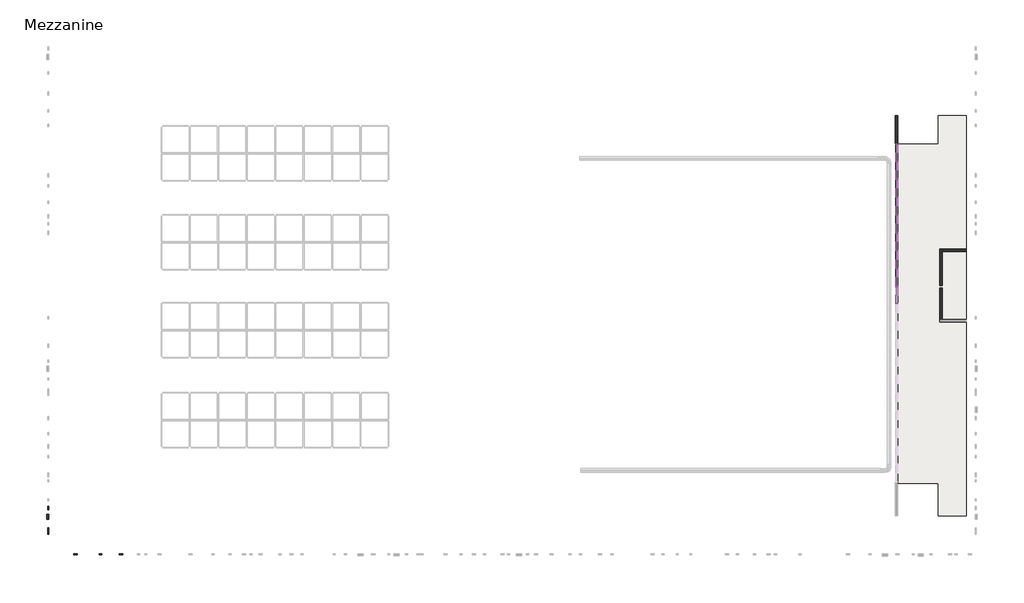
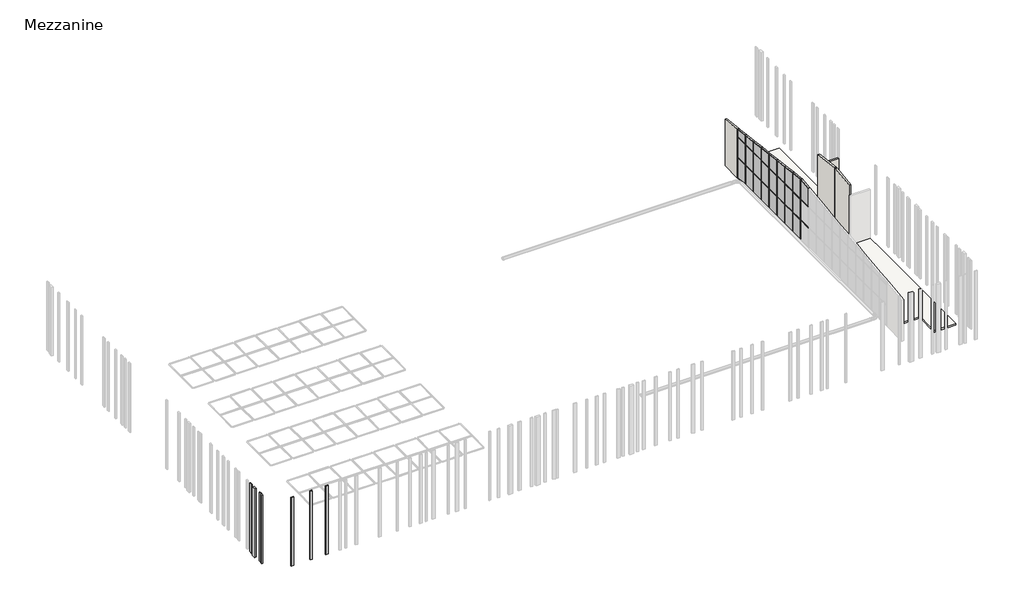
# One storey, part 2 of 7: 63 members, 25 plates, 7 columns, 3 walls, 1 slab.
"""IFC4 building model written with IfcOpenShell, lengths in millimetres."""

from ifc_helpers import new_model, si_unit, frame, origin, place, context, project, spatial, polyline, outline, extrude, faceted_brep, transform, mapped, element, save
from components import rectangular_mullion_50x150mm_3f309564, rectangular_mullion_50x150mm_6225e4e3, rectangular_mullion_50x150mm_2e7cc893, rectangular_mullion_50x150mm_5172759d, rectangular_mullion_50x150mm_f517b106, rectangular_mullion_50x150mm_6953233a, rectangular_mullion_50x150mm_662c37b1, rectangular_mullion_50x150mm_d798f442, rectangular_mullion_50x150mm_2a69905f, rectangular_mullion_50x150mm_edd430c1, rectangular_mullion_50x150mm_ae52ff38, rectangular_mullion_50x150mm_66c7db26, rectangular_mullion_50x150mm_93e457b6, rectangular_mullion_50x150mm_efd1a130, rectangular_mullion_50x150mm_404ae1a5, rectangular_mullion_50x150mm_37c01aa4, rectangular_mullion_50x150mm_562156de, rectangular_mullion_50x150mm_1e1698a4, rectangular_mullion_50x150mm_6c5de3a9, system_panel_glazed_c8329cd5, system_panel_glazed_24a0e3a8, system_panel_glazed_3d8f6b4e, system_panel_glazed_97d3e589, system_panel_glazed_0e85f418, system_panel_glazed_0b8ca4ec, system_panel_glazed_63b6f638, system_panel_glazed_34110132, system_panel_glazed_59f877d7, system_panel_glazed_ab255019, system_panel_glazed_0363fdee, system_panel_glazed_9d7c6a2b, system_panel_glazed_07299630

model = new_model("IFC4")

# Units and contexts
model_context = context("Model", 3, world=origin())
ifc_project = project(units=[si_unit("LENGTHUNIT", "METRE", prefix="MILLI")], contexts=[model_context])

# Site, building, storey
site = spatial("IfcSite", under=ifc_project)
building = spatial("IfcBuilding", under=site)
storey = spatial("IfcBuildingStorey", under=building, Name="Mezzanine", Elevation=5800.0)

# Columns
placement = place(None, origin())
element("IfcColumn", 1, ObjectType="Columns_Rectangular : 200x200", at=placement, inside=storey, context=model_context, shape_type="SweptSolid", body=[
    extrude(outline(polyline([(-90259.8408447, -34568.4199596), (-90259.8408447, -34768.4199596), (-90359.8408447, -34768.4199596), (-90359.8408447, -34568.4199596), (-90259.8408447, -34568.4199596)])), frame((0.0, 0.0, 5800.0), z_axis=(0.0, 0.0, 1.0), x_axis=(1.0, 0.0, 0.0)), (0.0, 0.0, 1.0), 8000.0),
])
element("IfcColumn", 2, ObjectType="Columns_Rectangular : 200x200", at=placement, inside=storey, context=model_context, shape_type="SweptSolid", body=[
    extrude(outline(polyline([(-86016.5322209, -36405.9222204), (-85816.5322209, -36405.9222204), (-85816.5322209, -36505.9222204), (-86016.5322209, -36505.9222204), (-86016.5322209, -36405.9222204)])), frame((0.0, 0.0, 5800.0), z_axis=(0.0, 0.0, 1.0), x_axis=(1.0, 0.0, 0.0)), (0.0, 0.0, 1.0), 8000.0),
])
element("IfcColumn", 3, ObjectType="Columns_Rectangular : 300x300", at=placement, inside=storey, context=model_context, shape_type="SweptSolid", body=[
    extrude(outline(polyline([(-90259.8408447, -32408.892235), (-90259.8408447, -32708.892235), (-90359.8408447, -32708.892235), (-90359.8408447, -32408.892235), (-90259.8408447, -32408.892235)])), frame((0.0, 0.0, 5800.0), z_axis=(0.0, 0.0, 1.0), x_axis=(1.0, 0.0, 0.0)), (0.0, 0.0, 1.0), 8000.0),
])
element("IfcColumn", 4, ObjectType="Columns_Rectangular : 300x300", at=placement, inside=storey, context=model_context, shape_type="SweptSolid", body=[
    extrude(outline(polyline([(-90259.8408447, -34208.892235), (-90259.8408447, -34508.892235), (-90359.8408447, -34508.892235), (-90359.8408447, -34208.892235), (-90259.8408447, -34208.892235)])), frame((0.0, 0.0, 5800.0), z_axis=(0.0, 0.0, 1.0), x_axis=(1.0, 0.0, 0.0)), (0.0, 0.0, 1.0), 8000.0),
])
element("IfcColumn", 5, ObjectType="Columns_Rectangular : 300x300", at=placement, inside=storey, context=model_context, shape_type="SweptSolid", body=[
    extrude(outline(polyline([(-84334.7290862, -36405.9222204), (-84034.7290862, -36405.9222204), (-84034.7290862, -36505.9222204), (-84334.7290862, -36505.9222204), (-84334.7290862, -36405.9222204)])), frame((0.0, 0.0, 5800.0), z_axis=(0.0, 0.0, 1.0), x_axis=(1.0, 0.0, 0.0)), (0.0, 0.0, 1.0), 8000.0),
])
element("IfcColumn", 6, ObjectType="Columns_Rectangular : 300x300", at=placement, inside=storey, context=model_context, shape_type="SweptSolid", body=[
    extrude(outline(polyline([(-88157.2053344, -36405.9222204), (-87857.2053344, -36405.9222204), (-87857.2053344, -36505.9222204), (-88157.2053344, -36505.9222204), (-88157.2053344, -36405.9222204)])), frame((0.0, 0.0, 5800.0), z_axis=(0.0, 0.0, 1.0), x_axis=(1.0, 0.0, 0.0)), (0.0, 0.0, 1.0), 8000.0),
])
element("IfcColumn", 7, ObjectType="Columns_Rectangular : 450x450mm", at=placement, inside=storey, context=model_context, shape_type="SweptSolid", body=[
    extrude(outline(polyline([(-90259.8408447, -33080.9199596), (-90259.8408447, -33530.9199596), (-90459.8408447, -33530.9199596), (-90459.8408447, -33080.9199596), (-90259.8408447, -33080.9199596)])), frame((0.0, 0.0, 5800.0), z_axis=(0.0, 0.0, 1.0), x_axis=(1.0, 0.0, 0.0)), (0.0, 0.0, 1.0), 8000.0),
])

# Members
rectangular_mullion_50x150mm_shape = rectangular_mullion_50x150mm_3f309564(model_context)
element("IfcMember", 8, ObjectType="Rectangular Mullion : 50x150mm", at=placement, inside=storey, context=model_context, shape_type="MappedRepresentation", body=[
    mapped(rectangular_mullion_50x150mm_shape, transform((-18810.7705062, -3284.8462757, 5800.0), x_axis=(0.0, 0.0, -1.0), y_axis=(1.0, 0.0, 0.0), z_axis=(0.0, -1.0, 0.0))),
])
rectangular_mullion_50x150mm_2_shape = rectangular_mullion_50x150mm_6225e4e3(model_context)
element("IfcMember", 9, ObjectType="Rectangular Mullion : 50x150mm", at=placement, inside=storey, context=model_context, shape_type="MappedRepresentation", body=[
    mapped(rectangular_mullion_50x150mm_2_shape, transform((-18810.7705062, -13837.330486, 5800.0), x_axis=(0.0, 1.0, 0.0), y_axis=(1.0, 0.0, 0.0), z_axis=(0.0, 0.0, -1.0))),
])
element("IfcMember", 10, ObjectType="Rectangular Mullion : 50x150mm", at=placement, inside=storey, context=model_context, shape_type="MappedRepresentation", body=[
    mapped(rectangular_mullion_50x150mm_2_shape, transform((-18810.7705062, -12333.4041702, 5800.0), x_axis=(0.0, 1.0, 0.0), y_axis=(1.0, 0.0, 0.0), z_axis=(0.0, 0.0, -1.0))),
])
element("IfcMember", 11, ObjectType="Rectangular Mullion : 50x150mm", at=placement, inside=storey, context=model_context, shape_type="MappedRepresentation", body=[
    mapped(rectangular_mullion_50x150mm_2_shape, transform((-18810.7705062, -10829.4778545, 5800.0), x_axis=(0.0, 1.0, 0.0), y_axis=(1.0, 0.0, 0.0), z_axis=(0.0, 0.0, -1.0))),
])
element("IfcMember", 12, ObjectType="Rectangular Mullion : 50x150mm", at=placement, inside=storey, context=model_context, shape_type="MappedRepresentation", body=[
    mapped(rectangular_mullion_50x150mm_2_shape, transform((-18810.7705062, -9325.5515387, 5800.0), x_axis=(0.0, 1.0, 0.0), y_axis=(1.0, 0.0, 0.0), z_axis=(0.0, 0.0, -1.0))),
])
element("IfcMember", 13, ObjectType="Rectangular Mullion : 50x150mm", at=placement, inside=storey, context=model_context, shape_type="MappedRepresentation", body=[
    mapped(rectangular_mullion_50x150mm_2_shape, transform((-18810.7705062, -7821.625223, 5800.0), x_axis=(0.0, 1.0, 0.0), y_axis=(1.0, 0.0, 0.0), z_axis=(0.0, 0.0, -1.0))),
])
element("IfcMember", 14, ObjectType="Rectangular Mullion : 50x150mm", at=placement, inside=storey, context=model_context, shape_type="MappedRepresentation", body=[
    mapped(rectangular_mullion_50x150mm_2_shape, transform((-18810.7705062, -6317.6989072, 5800.0), x_axis=(0.0, 1.0, 0.0), y_axis=(1.0, 0.0, 0.0), z_axis=(0.0, 0.0, -1.0))),
])
element("IfcMember", 15, ObjectType="Rectangular Mullion : 50x150mm", at=placement, inside=storey, context=model_context, shape_type="MappedRepresentation", body=[
    mapped(rectangular_mullion_50x150mm_2_shape, transform((-18810.7705062, -4813.7725915, 5800.0), x_axis=(0.0, 1.0, 0.0), y_axis=(1.0, 0.0, 0.0), z_axis=(0.0, 0.0, -1.0))),
])
element("IfcMember", 16, ObjectType="Rectangular Mullion : 50x150mm", at=placement, inside=storey, context=model_context, shape_type="MappedRepresentation", body=[
    mapped(rectangular_mullion_50x150mm_2_shape, transform((-18810.7705062, -3309.8462757, 5800.0), x_axis=(0.0, 1.0, 0.0), y_axis=(1.0, 0.0, 0.0), z_axis=(0.0, 0.0, -1.0))),
])
rectangular_mullion_50x150mm_3_shape = rectangular_mullion_50x150mm_2e7cc893(model_context)
element("IfcMember", 17, ObjectType="Rectangular Mullion : 50x150mm", at=placement, inside=storey, context=model_context, shape_type="MappedRepresentation", body=[
    mapped(rectangular_mullion_50x150mm_3_shape, transform((-18810.7705062, -1855.9199596, 8200.0), x_axis=(0.0, 0.0, 1.0), y_axis=(1.0, 0.0, 0.0), z_axis=(0.0, 1.0, 0.0))),
])
element("IfcMember", 18, ObjectType="Rectangular Mullion : 50x150mm", at=placement, inside=storey, context=model_context, shape_type="MappedRepresentation", body=[
    mapped(rectangular_mullion_50x150mm_3_shape, transform((-18810.7705062, -1855.9199596, 10600.0), x_axis=(0.0, 0.0, 1.0), y_axis=(1.0, 0.0, 0.0), z_axis=(0.0, 1.0, 0.0))),
])
rectangular_mullion_50x150mm_4_shape = rectangular_mullion_50x150mm_5172759d(model_context)
element("IfcMember", 19, ObjectType="Rectangular Mullion : 50x150mm", at=placement, inside=storey, context=model_context, shape_type="MappedRepresentation", body=[
    mapped(rectangular_mullion_50x150mm_4_shape, transform((-18810.7705062, -13862.330486, 8200.0), x_axis=(0.0, 0.0, 1.0), y_axis=(1.0, 0.0, 0.0), z_axis=(0.0, 1.0, 0.0))),
])
element("IfcMember", 20, ObjectType="Rectangular Mullion : 50x150mm", at=placement, inside=storey, context=model_context, shape_type="MappedRepresentation", body=[
    mapped(rectangular_mullion_50x150mm_4_shape, transform((-18810.7705062, -12358.4041702, 8200.0), x_axis=(0.0, 0.0, 1.0), y_axis=(1.0, 0.0, 0.0), z_axis=(0.0, 1.0, 0.0))),
])
element("IfcMember", 21, ObjectType="Rectangular Mullion : 50x150mm", at=placement, inside=storey, context=model_context, shape_type="MappedRepresentation", body=[
    mapped(rectangular_mullion_50x150mm_4_shape, transform((-18810.7705062, -10854.4778545, 8200.0), x_axis=(0.0, 0.0, 1.0), y_axis=(1.0, 0.0, 0.0), z_axis=(0.0, 1.0, 0.0))),
])
element("IfcMember", 22, ObjectType="Rectangular Mullion : 50x150mm", at=placement, inside=storey, context=model_context, shape_type="MappedRepresentation", body=[
    mapped(rectangular_mullion_50x150mm_4_shape, transform((-18810.7705062, -9350.5515387, 8200.0), x_axis=(0.0, 0.0, 1.0), y_axis=(1.0, 0.0, 0.0), z_axis=(0.0, 1.0, 0.0))),
])
element("IfcMember", 23, ObjectType="Rectangular Mullion : 50x150mm", at=placement, inside=storey, context=model_context, shape_type="MappedRepresentation", body=[
    mapped(rectangular_mullion_50x150mm_4_shape, transform((-18810.7705062, -7846.625223, 8200.0), x_axis=(0.0, 0.0, 1.0), y_axis=(1.0, 0.0, 0.0), z_axis=(0.0, 1.0, 0.0))),
])
element("IfcMember", 24, ObjectType="Rectangular Mullion : 50x150mm", at=placement, inside=storey, context=model_context, shape_type="MappedRepresentation", body=[
    mapped(rectangular_mullion_50x150mm_4_shape, transform((-18810.7705062, -6342.6989072, 8200.0), x_axis=(0.0, 0.0, 1.0), y_axis=(1.0, 0.0, 0.0), z_axis=(0.0, 1.0, 0.0))),
])
element("IfcMember", 25, ObjectType="Rectangular Mullion : 50x150mm", at=placement, inside=storey, context=model_context, shape_type="MappedRepresentation", body=[
    mapped(rectangular_mullion_50x150mm_4_shape, transform((-18810.7705062, -4838.7725915, 8200.0), x_axis=(0.0, 0.0, 1.0), y_axis=(1.0, 0.0, 0.0), z_axis=(0.0, 1.0, 0.0))),
])
element("IfcMember", 26, ObjectType="Rectangular Mullion : 50x150mm", at=placement, inside=storey, context=model_context, shape_type="MappedRepresentation", body=[
    mapped(rectangular_mullion_50x150mm_4_shape, transform((-18810.7705062, -3334.8462757, 8200.0), x_axis=(0.0, 0.0, 1.0), y_axis=(1.0, 0.0, 0.0), z_axis=(0.0, 1.0, 0.0))),
])
element("IfcMember", 27, ObjectType="Rectangular Mullion : 50x150mm", at=placement, inside=storey, context=model_context, shape_type="MappedRepresentation", body=[
    mapped(rectangular_mullion_50x150mm_4_shape, transform((-18810.7705062, -13862.330486, 10600.0), x_axis=(0.0, 0.0, 1.0), y_axis=(1.0, 0.0, 0.0), z_axis=(0.0, 1.0, 0.0))),
])
element("IfcMember", 28, ObjectType="Rectangular Mullion : 50x150mm", at=placement, inside=storey, context=model_context, shape_type="MappedRepresentation", body=[
    mapped(rectangular_mullion_50x150mm_4_shape, transform((-18810.7705062, -12358.4041702, 10600.0), x_axis=(0.0, 0.0, 1.0), y_axis=(1.0, 0.0, 0.0), z_axis=(0.0, 1.0, 0.0))),
])
element("IfcMember", 29, ObjectType="Rectangular Mullion : 50x150mm", at=placement, inside=storey, context=model_context, shape_type="MappedRepresentation", body=[
    mapped(rectangular_mullion_50x150mm_4_shape, transform((-18810.7705062, -10854.4778545, 10600.0), x_axis=(0.0, 0.0, 1.0), y_axis=(1.0, 0.0, 0.0), z_axis=(0.0, 1.0, 0.0))),
])
element("IfcMember", 30, ObjectType="Rectangular Mullion : 50x150mm", at=placement, inside=storey, context=model_context, shape_type="MappedRepresentation", body=[
    mapped(rectangular_mullion_50x150mm_4_shape, transform((-18810.7705062, -9350.5515387, 10600.0), x_axis=(0.0, 0.0, 1.0), y_axis=(1.0, 0.0, 0.0), z_axis=(0.0, 1.0, 0.0))),
])
element("IfcMember", 31, ObjectType="Rectangular Mullion : 50x150mm", at=placement, inside=storey, context=model_context, shape_type="MappedRepresentation", body=[
    mapped(rectangular_mullion_50x150mm_4_shape, transform((-18810.7705062, -7846.625223, 10600.0), x_axis=(0.0, 0.0, 1.0), y_axis=(1.0, 0.0, 0.0), z_axis=(0.0, 1.0, 0.0))),
])
element("IfcMember", 32, ObjectType="Rectangular Mullion : 50x150mm", at=placement, inside=storey, context=model_context, shape_type="MappedRepresentation", body=[
    mapped(rectangular_mullion_50x150mm_4_shape, transform((-18810.7705062, -6342.6989072, 10600.0), x_axis=(0.0, 0.0, 1.0), y_axis=(1.0, 0.0, 0.0), z_axis=(0.0, 1.0, 0.0))),
])
element("IfcMember", 33, ObjectType="Rectangular Mullion : 50x150mm", at=placement, inside=storey, context=model_context, shape_type="MappedRepresentation", body=[
    mapped(rectangular_mullion_50x150mm_4_shape, transform((-18810.7705062, -4838.7725915, 10600.0), x_axis=(0.0, 0.0, 1.0), y_axis=(1.0, 0.0, 0.0), z_axis=(0.0, 1.0, 0.0))),
])
element("IfcMember", 34, ObjectType="Rectangular Mullion : 50x150mm", at=placement, inside=storey, context=model_context, shape_type="MappedRepresentation", body=[
    mapped(rectangular_mullion_50x150mm_4_shape, transform((-18810.7705062, -3334.8462757, 10600.0), x_axis=(0.0, 0.0, 1.0), y_axis=(1.0, 0.0, 0.0), z_axis=(0.0, 1.0, 0.0))),
])
rectangular_mullion_50x150mm_5_shape = rectangular_mullion_50x150mm_f517b106(model_context)
element("IfcMember", 35, ObjectType="Rectangular Mullion : 50x150mm", at=placement, inside=storey, context=model_context, shape_type="MappedRepresentation", body=[
    mapped(rectangular_mullion_50x150mm_5_shape, transform((-18810.7705062, -13812.330486, 5800.0), x_axis=(0.0, 0.0, -1.0), y_axis=(1.0, 0.0, 0.0), z_axis=(0.0, -1.0, 0.0))),
])
element("IfcMember", 36, ObjectType="Rectangular Mullion : 50x150mm", at=placement, inside=storey, context=model_context, shape_type="MappedRepresentation", body=[
    mapped(rectangular_mullion_50x150mm_5_shape, transform((-18810.7705062, -12308.4041702, 5800.0), x_axis=(0.0, 0.0, -1.0), y_axis=(1.0, 0.0, 0.0), z_axis=(0.0, -1.0, 0.0))),
])
element("IfcMember", 37, ObjectType="Rectangular Mullion : 50x150mm", at=placement, inside=storey, context=model_context, shape_type="MappedRepresentation", body=[
    mapped(rectangular_mullion_50x150mm_5_shape, transform((-18810.7705062, -10804.4778545, 5800.0), x_axis=(0.0, 0.0, -1.0), y_axis=(1.0, 0.0, 0.0), z_axis=(0.0, -1.0, 0.0))),
])
element("IfcMember", 38, ObjectType="Rectangular Mullion : 50x150mm", at=placement, inside=storey, context=model_context, shape_type="MappedRepresentation", body=[
    mapped(rectangular_mullion_50x150mm_5_shape, transform((-18810.7705062, -9300.5515387, 5800.0), x_axis=(0.0, 0.0, -1.0), y_axis=(1.0, 0.0, 0.0), z_axis=(0.0, -1.0, 0.0))),
])
element("IfcMember", 39, ObjectType="Rectangular Mullion : 50x150mm", at=placement, inside=storey, context=model_context, shape_type="MappedRepresentation", body=[
    mapped(rectangular_mullion_50x150mm_5_shape, transform((-18810.7705062, -7796.625223, 5800.0), x_axis=(0.0, 0.0, -1.0), y_axis=(1.0, 0.0, 0.0), z_axis=(0.0, -1.0, 0.0))),
])
element("IfcMember", 40, ObjectType="Rectangular Mullion : 50x150mm", at=placement, inside=storey, context=model_context, shape_type="MappedRepresentation", body=[
    mapped(rectangular_mullion_50x150mm_5_shape, transform((-18810.7705062, -6292.6989072, 5800.0), x_axis=(0.0, 0.0, -1.0), y_axis=(1.0, 0.0, 0.0), z_axis=(0.0, -1.0, 0.0))),
])
element("IfcMember", 41, ObjectType="Rectangular Mullion : 50x150mm", at=placement, inside=storey, context=model_context, shape_type="MappedRepresentation", body=[
    mapped(rectangular_mullion_50x150mm_5_shape, transform((-18810.7705062, -4788.7725915, 5800.0), x_axis=(0.0, 0.0, -1.0), y_axis=(1.0, 0.0, 0.0), z_axis=(0.0, -1.0, 0.0))),
])
element("IfcMember", 42, ObjectType="Rectangular Mullion : 50x150mm", at=placement, inside=storey, context=model_context, shape_type="MappedRepresentation", body=[
    mapped(rectangular_mullion_50x150mm_2_shape, transform((-18810.7705062, -13837.330486, 8200.0), x_axis=(0.0, 1.0, 0.0), y_axis=(1.0, 0.0, 0.0), z_axis=(0.0, 0.0, -1.0))),
])
element("IfcMember", 43, ObjectType="Rectangular Mullion : 50x150mm", at=placement, inside=storey, context=model_context, shape_type="MappedRepresentation", body=[
    mapped(rectangular_mullion_50x150mm_2_shape, transform((-18810.7705062, -12333.4041702, 8200.0), x_axis=(0.0, 1.0, 0.0), y_axis=(1.0, 0.0, 0.0), z_axis=(0.0, 0.0, -1.0))),
])
element("IfcMember", 44, ObjectType="Rectangular Mullion : 50x150mm", at=placement, inside=storey, context=model_context, shape_type="MappedRepresentation", body=[
    mapped(rectangular_mullion_50x150mm_2_shape, transform((-18810.7705062, -10829.4778545, 8200.0), x_axis=(0.0, 1.0, 0.0), y_axis=(1.0, 0.0, 0.0), z_axis=(0.0, 0.0, -1.0))),
])
element("IfcMember", 45, ObjectType="Rectangular Mullion : 50x150mm", at=placement, inside=storey, context=model_context, shape_type="MappedRepresentation", body=[
    mapped(rectangular_mullion_50x150mm_2_shape, transform((-18810.7705062, -9325.5515387, 8200.0), x_axis=(0.0, 1.0, 0.0), y_axis=(1.0, 0.0, 0.0), z_axis=(0.0, 0.0, -1.0))),
])
element("IfcMember", 46, ObjectType="Rectangular Mullion : 50x150mm", at=placement, inside=storey, context=model_context, shape_type="MappedRepresentation", body=[
    mapped(rectangular_mullion_50x150mm_2_shape, transform((-18810.7705062, -7821.625223, 8200.0), x_axis=(0.0, 1.0, 0.0), y_axis=(1.0, 0.0, 0.0), z_axis=(0.0, 0.0, -1.0))),
])
element("IfcMember", 47, ObjectType="Rectangular Mullion : 50x150mm", at=placement, inside=storey, context=model_context, shape_type="MappedRepresentation", body=[
    mapped(rectangular_mullion_50x150mm_2_shape, transform((-18810.7705062, -6317.6989072, 8200.0), x_axis=(0.0, 1.0, 0.0), y_axis=(1.0, 0.0, 0.0), z_axis=(0.0, 0.0, -1.0))),
])
element("IfcMember", 48, ObjectType="Rectangular Mullion : 50x150mm", at=placement, inside=storey, context=model_context, shape_type="MappedRepresentation", body=[
    mapped(rectangular_mullion_50x150mm_2_shape, transform((-18810.7705062, -4813.7725915, 8200.0), x_axis=(0.0, 1.0, 0.0), y_axis=(1.0, 0.0, 0.0), z_axis=(0.0, 0.0, -1.0))),
])
element("IfcMember", 49, ObjectType="Rectangular Mullion : 50x150mm", at=placement, inside=storey, context=model_context, shape_type="MappedRepresentation", body=[
    mapped(rectangular_mullion_50x150mm_2_shape, transform((-18810.7705062, -3309.8462757, 8200.0), x_axis=(0.0, 1.0, 0.0), y_axis=(1.0, 0.0, 0.0), z_axis=(0.0, 0.0, -1.0))),
])
rectangular_mullion_50x150mm_6_shape = rectangular_mullion_50x150mm_6953233a(model_context)
element("IfcMember", 50, ObjectType="Rectangular Mullion : 50x150mm", at=placement, inside=storey, context=model_context, shape_type="MappedRepresentation", body=[
    mapped(rectangular_mullion_50x150mm_6_shape, transform((-18810.7705062, -10829.4778545, 12611.2422907), x_axis=(0.0, 0.1218693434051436, 0.9925461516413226), y_axis=(1.0, 0.0, 0.0), z_axis=(0.0, 0.9925461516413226, -0.1218693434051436))),
])
element("IfcMember", 51, ObjectType="Rectangular Mullion : 50x150mm", at=placement, inside=storey, context=model_context, shape_type="MappedRepresentation", body=[
    mapped(rectangular_mullion_50x150mm_6_shape, transform((-18810.7705062, -9325.5515387, 12426.5833584), x_axis=(0.0, 0.12186934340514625, 0.9925461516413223), y_axis=(1.0, 0.0, 0.0), z_axis=(0.0, 0.9925461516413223, -0.12186934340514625))),
])
element("IfcMember", 52, ObjectType="Rectangular Mullion : 50x150mm", at=placement, inside=storey, context=model_context, shape_type="MappedRepresentation", body=[
    mapped(rectangular_mullion_50x150mm_6_shape, transform((-18810.7705062, -7821.625223, 12241.9244261), x_axis=(0.0, 0.12186934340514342, 0.9925461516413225), y_axis=(1.0, 0.0, 0.0), z_axis=(0.0, 0.9925461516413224, -0.12186934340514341))),
])
element("IfcMember", 53, ObjectType="Rectangular Mullion : 50x150mm", at=placement, inside=storey, context=model_context, shape_type="MappedRepresentation", body=[
    mapped(rectangular_mullion_50x150mm_6_shape, transform((-18810.7705062, -6317.6989072, 12057.2654938), x_axis=(0.0, 0.12186934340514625, 0.9925461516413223), y_axis=(1.0, 0.0, 0.0), z_axis=(0.0, 0.9925461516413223, -0.12186934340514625))),
])
element("IfcMember", 54, ObjectType="Rectangular Mullion : 50x150mm", at=placement, inside=storey, context=model_context, shape_type="MappedRepresentation", body=[
    mapped(rectangular_mullion_50x150mm_6_shape, transform((-18810.7705062, -4813.7725915, 11872.6065615), x_axis=(0.0, 0.12186934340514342, 0.9925461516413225), y_axis=(1.0, 0.0, 0.0), z_axis=(0.0, 0.9925461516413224, -0.12186934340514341))),
])
element("IfcMember", 55, ObjectType="Rectangular Mullion : 50x150mm", at=placement, inside=storey, context=model_context, shape_type="MappedRepresentation", body=[
    mapped(rectangular_mullion_50x150mm_6_shape, transform((-18810.7705062, -3309.8462757, 11687.9476292), x_axis=(0.0, 0.12186934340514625, 0.9925461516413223), y_axis=(1.0, 0.0, 0.0), z_axis=(0.0, 0.9925461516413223, -0.12186934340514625))),
])
rectangular_mullion_50x150mm_7_shape = rectangular_mullion_50x150mm_662c37b1(model_context)
element("IfcMember", 56, ObjectType="Rectangular Mullion : 50x150mm", at=placement, inside=storey, context=model_context, shape_type="MappedRepresentation", body=[
    mapped(rectangular_mullion_50x150mm_7_shape, transform((-18810.7705062, -1805.9199596, 5800.0), x_axis=(0.0, 1.0, 0.0), y_axis=(1.0, 0.0, 0.0), z_axis=(0.0, 0.0, -1.0))),
])
element("IfcMember", 57, ObjectType="Rectangular Mullion : 50x150mm", at=placement, inside=storey, context=model_context, shape_type="MappedRepresentation", body=[
    mapped(rectangular_mullion_50x150mm_7_shape, transform((-18810.7705062, -1805.9199596, 8200.0), x_axis=(0.0, 1.0, 0.0), y_axis=(1.0, 0.0, 0.0), z_axis=(0.0, 0.0, -1.0))),
])
rectangular_mullion_50x150mm_8_shape = rectangular_mullion_50x150mm_d798f442(model_context)
element("IfcMember", 58, ObjectType="Rectangular Mullion : 50x150mm", at=placement, inside=storey, context=model_context, shape_type="MappedRepresentation", body=[
    mapped(rectangular_mullion_50x150mm_8_shape, transform((-18810.7705062, -13905.9199596, 12988.9818838), x_axis=(0.0, -0.12186934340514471, 0.9925461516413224), y_axis=(1.0, 0.0, 0.0), z_axis=(0.0, 0.9925461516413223, 0.1218693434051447))),
])
rectangular_mullion_50x150mm_9_shape = rectangular_mullion_50x150mm_2a69905f(model_context)
element("IfcMember", 59, ObjectType="Rectangular Mullion : 50x150mm", at=placement, inside=storey, context=model_context, shape_type="MappedRepresentation", body=[
    mapped(rectangular_mullion_50x150mm_9_shape, transform((-18810.7705062, -1805.9199596, 11503.2886968), x_axis=(0.0, 0.1218693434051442, 0.9925461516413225), y_axis=(1.0, 0.0, 0.0), z_axis=(0.0, 0.9925461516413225, -0.1218693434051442))),
])
rectangular_mullion_50x150mm_10_shape = rectangular_mullion_50x150mm_edd430c1(model_context)
element("IfcMember", 60, ObjectType="Rectangular Mullion : 50x150mm", at=placement, inside=storey, context=model_context, shape_type="MappedRepresentation", body=[
    mapped(rectangular_mullion_50x150mm_10_shape, transform((-18810.7705062, -13837.330486, 10600.0), x_axis=(0.0, 1.0, 0.0), y_axis=(1.0, 0.0, 0.0), z_axis=(0.0, 0.0, -1.0))),
])
rectangular_mullion_50x150mm_11_shape = rectangular_mullion_50x150mm_ae52ff38(model_context)
element("IfcMember", 61, ObjectType="Rectangular Mullion : 50x150mm", at=placement, inside=storey, context=model_context, shape_type="MappedRepresentation", body=[
    mapped(rectangular_mullion_50x150mm_11_shape, transform((-18810.7705062, -12333.4041702, 10600.0), x_axis=(0.0, 1.0, 0.0), y_axis=(1.0, 0.0, 0.0), z_axis=(0.0, 0.0, -1.0))),
])
rectangular_mullion_50x150mm_12_shape = rectangular_mullion_50x150mm_66c7db26(model_context)
element("IfcMember", 62, ObjectType="Rectangular Mullion : 50x150mm", at=placement, inside=storey, context=model_context, shape_type="MappedRepresentation", body=[
    mapped(rectangular_mullion_50x150mm_12_shape, transform((-18810.7705062, -10829.4778545, 10600.0), x_axis=(0.0, 1.0, 0.0), y_axis=(1.0, 0.0, 0.0), z_axis=(0.0, 0.0, -1.0))),
])
rectangular_mullion_50x150mm_13_shape = rectangular_mullion_50x150mm_93e457b6(model_context)
element("IfcMember", 63, ObjectType="Rectangular Mullion : 50x150mm", at=placement, inside=storey, context=model_context, shape_type="MappedRepresentation", body=[
    mapped(rectangular_mullion_50x150mm_13_shape, transform((-18810.7705062, -9325.5515387, 10600.0), x_axis=(0.0, 1.0, 0.0), y_axis=(1.0, 0.0, 0.0), z_axis=(0.0, 0.0, -1.0))),
])
rectangular_mullion_50x150mm_14_shape = rectangular_mullion_50x150mm_efd1a130(model_context)
element("IfcMember", 64, ObjectType="Rectangular Mullion : 50x150mm", at=placement, inside=storey, context=model_context, shape_type="MappedRepresentation", body=[
    mapped(rectangular_mullion_50x150mm_14_shape, transform((-18810.7705062, -7821.625223, 10600.0), x_axis=(0.0, 1.0, 0.0), y_axis=(1.0, 0.0, 0.0), z_axis=(0.0, 0.0, -1.0))),
])
rectangular_mullion_50x150mm_15_shape = rectangular_mullion_50x150mm_404ae1a5(model_context)
element("IfcMember", 65, ObjectType="Rectangular Mullion : 50x150mm", at=placement, inside=storey, context=model_context, shape_type="MappedRepresentation", body=[
    mapped(rectangular_mullion_50x150mm_15_shape, transform((-18810.7705062, -6317.6989072, 10600.0), x_axis=(0.0, 1.0, 0.0), y_axis=(1.0, 0.0, 0.0), z_axis=(0.0, 0.0, -1.0))),
])
rectangular_mullion_50x150mm_16_shape = rectangular_mullion_50x150mm_37c01aa4(model_context)
element("IfcMember", 66, ObjectType="Rectangular Mullion : 50x150mm", at=placement, inside=storey, context=model_context, shape_type="MappedRepresentation", body=[
    mapped(rectangular_mullion_50x150mm_16_shape, transform((-18810.7705062, -4813.7725915, 10600.0), x_axis=(0.0, 1.0, 0.0), y_axis=(1.0, 0.0, 0.0), z_axis=(0.0, 0.0, -1.0))),
])
rectangular_mullion_50x150mm_17_shape = rectangular_mullion_50x150mm_562156de(model_context)
element("IfcMember", 67, ObjectType="Rectangular Mullion : 50x150mm", at=placement, inside=storey, context=model_context, shape_type="MappedRepresentation", body=[
    mapped(rectangular_mullion_50x150mm_17_shape, transform((-18810.7705062, -3309.8462757, 10600.0), x_axis=(0.0, 1.0, 0.0), y_axis=(1.0, 0.0, 0.0), z_axis=(0.0, 0.0, -1.0))),
])
rectangular_mullion_50x150mm_18_shape = rectangular_mullion_50x150mm_1e1698a4(model_context)
element("IfcMember", 68, ObjectType="Rectangular Mullion : 50x150mm", at=placement, inside=storey, context=model_context, shape_type="MappedRepresentation", body=[
    mapped(rectangular_mullion_50x150mm_18_shape, transform((-18810.7705062, -13837.330486, 12980.5601554), x_axis=(0.0, 0.12186934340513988, 0.992546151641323), y_axis=(1.0, 0.0, 0.0), z_axis=(0.0, 0.992546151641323, -0.12186934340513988))),
])
element("IfcMember", 69, ObjectType="Rectangular Mullion : 50x150mm", at=placement, inside=storey, context=model_context, shape_type="MappedRepresentation", body=[
    mapped(rectangular_mullion_50x150mm_6_shape, transform((-18810.7705062, -12333.4041702, 12795.9012231), x_axis=(0.0, 0.12186934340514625, 0.9925461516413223), y_axis=(1.0, 0.0, 0.0), z_axis=(0.0, 0.9925461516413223, -0.12186934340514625))),
])
rectangular_mullion_50x150mm_19_shape = rectangular_mullion_50x150mm_6c5de3a9(model_context)
element("IfcMember", 70, ObjectType="Rectangular Mullion : 50x150mm", at=placement, inside=storey, context=model_context, shape_type="MappedRepresentation", body=[
    mapped(rectangular_mullion_50x150mm_19_shape, transform((-18810.7705062, -1805.9199596, 10600.0), x_axis=(0.0, 1.0, 0.0), y_axis=(1.0, 0.0, 0.0), z_axis=(0.0, 0.0, -1.0))),
])

# Plates
system_panel_glazed_shape = system_panel_glazed_c8329cd5(model_context)
element("IfcPlate", 71, ObjectType="System Panel : Glazed", at=placement, inside=storey, context=model_context, shape_type="MappedRepresentation", body=[
    mapped(system_panel_glazed_shape, transform((-18810.7705062, -2570.3831177, 5850.0), x_axis=(0.0, 1.0, 0.0), y_axis=(-1.0, 0.0, 0.0), z_axis=(0.0, 0.0, 1.0))),
])
system_panel_glazed_2_shape = system_panel_glazed_24a0e3a8(model_context)
element("IfcPlate", 72, ObjectType="System Panel : Glazed", at=placement, inside=storey, context=model_context, shape_type="MappedRepresentation", body=[
    mapped(system_panel_glazed_2_shape, transform((-18810.7705062, -13085.3673281, 5850.0), x_axis=(0.0, 1.0, 0.0), y_axis=(-1.0, 0.0, 0.0), z_axis=(0.0, 0.0, 1.0))),
])
element("IfcPlate", 73, ObjectType="System Panel : Glazed", at=placement, inside=storey, context=model_context, shape_type="MappedRepresentation", body=[
    mapped(system_panel_glazed_2_shape, transform((-18810.7705062, -11581.4410124, 5850.0), x_axis=(0.0, 1.0, 0.0), y_axis=(-1.0, 0.0, 0.0), z_axis=(0.0, 0.0, 1.0))),
])
element("IfcPlate", 74, ObjectType="System Panel : Glazed", at=placement, inside=storey, context=model_context, shape_type="MappedRepresentation", body=[
    mapped(system_panel_glazed_2_shape, transform((-18810.7705062, -10077.5146966, 5850.0), x_axis=(0.0, 1.0, 0.0), y_axis=(-1.0, 0.0, 0.0), z_axis=(0.0, 0.0, 1.0))),
])
element("IfcPlate", 75, ObjectType="System Panel : Glazed", at=placement, inside=storey, context=model_context, shape_type="MappedRepresentation", body=[
    mapped(system_panel_glazed_2_shape, transform((-18810.7705062, -8573.5883808, 5850.0), x_axis=(0.0, 1.0, 0.0), y_axis=(-1.0, 0.0, 0.0), z_axis=(0.0, 0.0, 1.0))),
])
element("IfcPlate", 76, ObjectType="System Panel : Glazed", at=placement, inside=storey, context=model_context, shape_type="MappedRepresentation", body=[
    mapped(system_panel_glazed_2_shape, transform((-18810.7705062, -7069.6620651, 5850.0), x_axis=(0.0, 1.0, 0.0), y_axis=(-1.0, 0.0, 0.0), z_axis=(0.0, 0.0, 1.0))),
])
element("IfcPlate", 77, ObjectType="System Panel : Glazed", at=placement, inside=storey, context=model_context, shape_type="MappedRepresentation", body=[
    mapped(system_panel_glazed_2_shape, transform((-18810.7705062, -5565.7357493, 5850.0), x_axis=(0.0, 1.0, 0.0), y_axis=(-1.0, 0.0, 0.0), z_axis=(0.0, 0.0, 1.0))),
])
element("IfcPlate", 78, ObjectType="System Panel : Glazed", at=placement, inside=storey, context=model_context, shape_type="MappedRepresentation", body=[
    mapped(system_panel_glazed_2_shape, transform((-18810.7705062, -4061.8094336, 5850.0), x_axis=(0.0, 1.0, 0.0), y_axis=(-1.0, 0.0, 0.0), z_axis=(0.0, 0.0, 1.0))),
])
system_panel_glazed_3_shape = system_panel_glazed_3d8f6b4e(model_context)
element("IfcPlate", 79, ObjectType="System Panel : Glazed", at=placement, inside=storey, context=model_context, shape_type="MappedRepresentation", body=[
    mapped(system_panel_glazed_3_shape, transform((-18810.7705062, -2570.3831177, 8225.0), x_axis=(0.0, 1.0, 0.0), y_axis=(-1.0, 0.0, 0.0), z_axis=(0.0, 0.0, 1.0))),
])
system_panel_glazed_4_shape = system_panel_glazed_97d3e589(model_context)
element("IfcPlate", 80, ObjectType="System Panel : Glazed", at=placement, inside=storey, context=model_context, shape_type="MappedRepresentation", body=[
    mapped(system_panel_glazed_4_shape, transform((-18810.7705062, -13085.3673281, 8225.0), x_axis=(0.0, 1.0, 0.0), y_axis=(-1.0, 0.0, 0.0), z_axis=(0.0, 0.0, 1.0))),
])
element("IfcPlate", 81, ObjectType="System Panel : Glazed", at=placement, inside=storey, context=model_context, shape_type="MappedRepresentation", body=[
    mapped(system_panel_glazed_4_shape, transform((-18810.7705062, -11581.4410124, 8225.0), x_axis=(0.0, 1.0, 0.0), y_axis=(-1.0, 0.0, 0.0), z_axis=(0.0, 0.0, 1.0))),
])
element("IfcPlate", 82, ObjectType="System Panel : Glazed", at=placement, inside=storey, context=model_context, shape_type="MappedRepresentation", body=[
    mapped(system_panel_glazed_4_shape, transform((-18810.7705062, -10077.5146966, 8225.0), x_axis=(0.0, 1.0, 0.0), y_axis=(-1.0, 0.0, 0.0), z_axis=(0.0, 0.0, 1.0))),
])
element("IfcPlate", 83, ObjectType="System Panel : Glazed", at=placement, inside=storey, context=model_context, shape_type="MappedRepresentation", body=[
    mapped(system_panel_glazed_4_shape, transform((-18810.7705062, -8573.5883808, 8225.0), x_axis=(0.0, 1.0, 0.0), y_axis=(-1.0, 0.0, 0.0), z_axis=(0.0, 0.0, 1.0))),
])
element("IfcPlate", 84, ObjectType="System Panel : Glazed", at=placement, inside=storey, context=model_context, shape_type="MappedRepresentation", body=[
    mapped(system_panel_glazed_4_shape, transform((-18810.7705062, -7069.6620651, 8225.0), x_axis=(0.0, 1.0, 0.0), y_axis=(-1.0, 0.0, 0.0), z_axis=(0.0, 0.0, 1.0))),
])
element("IfcPlate", 85, ObjectType="System Panel : Glazed", at=placement, inside=storey, context=model_context, shape_type="MappedRepresentation", body=[
    mapped(system_panel_glazed_4_shape, transform((-18810.7705062, -5565.7357493, 8225.0), x_axis=(0.0, 1.0, 0.0), y_axis=(-1.0, 0.0, 0.0), z_axis=(0.0, 0.0, 1.0))),
])
element("IfcPlate", 86, ObjectType="System Panel : Glazed", at=placement, inside=storey, context=model_context, shape_type="MappedRepresentation", body=[
    mapped(system_panel_glazed_4_shape, transform((-18810.7705062, -4061.8094336, 8225.0), x_axis=(0.0, 1.0, 0.0), y_axis=(-1.0, 0.0, 0.0), z_axis=(0.0, 0.0, 1.0))),
])
system_panel_glazed_5_shape = system_panel_glazed_0e85f418(model_context)
element("IfcPlate", 87, ObjectType="System Panel : Glazed", at=placement, inside=storey, context=model_context, shape_type="MappedRepresentation", body=[
    mapped(system_panel_glazed_5_shape, transform((-18810.7705062, -14589.2936439, 10625.0), x_axis=(0.0, 1.0, 0.0), y_axis=(-1.0, 0.0, 0.0), z_axis=(0.0, 0.0, 1.0))),
])
system_panel_glazed_6_shape = system_panel_glazed_0b8ca4ec(model_context)
element("IfcPlate", 88, ObjectType="System Panel : Glazed", at=placement, inside=storey, context=model_context, shape_type="MappedRepresentation", body=[
    mapped(system_panel_glazed_6_shape, transform((-18810.7705062, -13085.3673281, 10625.0), x_axis=(0.0, 1.0, 0.0), y_axis=(-1.0, 0.0, 0.0), z_axis=(0.0, 0.0, 1.0))),
])
system_panel_glazed_7_shape = system_panel_glazed_63b6f638(model_context)
element("IfcPlate", 89, ObjectType="System Panel : Glazed", at=placement, inside=storey, context=model_context, shape_type="MappedRepresentation", body=[
    mapped(system_panel_glazed_7_shape, transform((-18810.7705062, -11581.4410124, 10625.0), x_axis=(0.0, 1.0, 0.0), y_axis=(-1.0, 0.0, 0.0), z_axis=(0.0, 0.0, 1.0))),
])
system_panel_glazed_8_shape = system_panel_glazed_34110132(model_context)
element("IfcPlate", 90, ObjectType="System Panel : Glazed", at=placement, inside=storey, context=model_context, shape_type="MappedRepresentation", body=[
    mapped(system_panel_glazed_8_shape, transform((-18810.7705062, -10077.5146966, 10625.0), x_axis=(0.0, 1.0, 0.0), y_axis=(-1.0, 0.0, 0.0), z_axis=(0.0, 0.0, 1.0))),
])
system_panel_glazed_9_shape = system_panel_glazed_59f877d7(model_context)
element("IfcPlate", 91, ObjectType="System Panel : Glazed", at=placement, inside=storey, context=model_context, shape_type="MappedRepresentation", body=[
    mapped(system_panel_glazed_9_shape, transform((-18810.7705062, -8573.5883808, 10625.0), x_axis=(0.0, 1.0, 0.0), y_axis=(-1.0, 0.0, 0.0), z_axis=(0.0, 0.0, 1.0))),
])
system_panel_glazed_10_shape = system_panel_glazed_ab255019(model_context)
element("IfcPlate", 92, ObjectType="System Panel : Glazed", at=placement, inside=storey, context=model_context, shape_type="MappedRepresentation", body=[
    mapped(system_panel_glazed_10_shape, transform((-18810.7705062, -7069.6620651, 10625.0), x_axis=(0.0, 1.0, 0.0), y_axis=(-1.0, 0.0, 0.0), z_axis=(0.0, 0.0, 1.0))),
])
system_panel_glazed_11_shape = system_panel_glazed_0363fdee(model_context)
element("IfcPlate", 93, ObjectType="System Panel : Glazed", at=placement, inside=storey, context=model_context, shape_type="MappedRepresentation", body=[
    mapped(system_panel_glazed_11_shape, transform((-18810.7705062, -5565.7357493, 10625.0), x_axis=(0.0, 1.0, 0.0), y_axis=(-1.0, 0.0, 0.0), z_axis=(0.0, 0.0, 1.0))),
])
system_panel_glazed_12_shape = system_panel_glazed_9d7c6a2b(model_context)
element("IfcPlate", 94, ObjectType="System Panel : Glazed", at=placement, inside=storey, context=model_context, shape_type="MappedRepresentation", body=[
    mapped(system_panel_glazed_12_shape, transform((-18810.7705062, -4061.8094336, 10625.0), x_axis=(0.0, 1.0, 0.0), y_axis=(-1.0, 0.0, 0.0), z_axis=(0.0, 0.0, 1.0))),
])
system_panel_glazed_13_shape = system_panel_glazed_07299630(model_context)
element("IfcPlate", 95, ObjectType="System Panel : Glazed", at=placement, inside=storey, context=model_context, shape_type="MappedRepresentation", body=[
    mapped(system_panel_glazed_13_shape, transform((-18810.7705062, -2570.3831177, 10625.0), x_axis=(0.0, 1.0, 0.0), y_axis=(-1.0, 0.0, 0.0), z_axis=(0.0, 0.0, 1.0))),
])

# Slab
element("IfcSlab", 96, ObjectType="Floor-Upper_160mmConc-CorusComFlor51", at=placement, inside=storey, context=model_context, shape_type="Brep", body=[
    faceted_brep([(-12960.7705062, -33205.9199596, 5589.0), (-15325.9339353, -33205.9199596, 5589.0), (-15325.9339353, -30480.5199596, 5589.0), (-18710.7705062, -30480.5199596, 5589.0), (-18710.7705062, -1856.3199596, 5589.0), (-15325.9339353, -1856.3199596, 5589.0), (-15325.9339353, 544.0800404, 5589.0), (-12960.7705062, 544.0800404, 5589.0), (-12960.7705062, -2056.3199596, 5589.0), (-12960.7705062, -2565.9199596, 5589.0), (-12960.7705062, -9725.9199596, 5589.0), (-12960.7705062, -10005.9199596, 5589.0), (-12960.7705062, -10205.9199596, 5589.0), (-12960.7705062, -10325.9199596, 5589.0), (-12960.7705062, -17485.9199596, 5589.0), (-12960.7705062, -17605.9199596, 5589.0), (-12960.7705062, -17805.9199596, 5589.0), (-12960.7705062, -18085.9199596, 5589.0), (-12960.7705062, -25245.9199596, 5589.0), (-12960.7705062, -25655.5199596, 5589.0), (-12960.7705062, -25805.5199596, 5589.0), (-12960.7705062, -25845.9199596, 5589.0), (-12960.7705062, -33205.9199596, 5800.0), (-12960.7705062, -25845.9199596, 5800.0), (-12960.7705062, -25245.9199596, 5800.0), (-12960.7705062, -18085.9199596, 5800.0), (-12960.7705062, -17485.9199596, 5800.0), (-12960.7705062, -10325.9199596, 5800.0), (-12960.7705062, -9725.9199596, 5800.0), (-12960.7705062, -2565.9199596, 5800.0), (-12960.7705062, -1965.9199596, 5800.0), (-12960.7705062, 544.0800404, 5800.0), (-15325.9339353, 544.0800404, 5800.0), (-15325.9339353, -1856.3199596, 5800.0), (-18710.7705062, -1856.3199596, 5800.0), (-18710.7705062, -30480.5199596, 5800.0), (-15325.9339353, -30480.5199596, 5800.0), (-15325.9339353, -33205.9199596, 5800.0)], [[[0, 1, 2, 3, 4, 5, 6, 7, 8, 9, 10, 11, 12, 13, 14, 15, 16, 17, 18, 19, 20, 21]], [[22, 23, 24, 25, 26, 27, 28, 29, 30, 31, 32, 33, 34, 35, 36, 37]], [[1, 0, 22, 37]], [[4, 3, 35, 34]], [[7, 6, 32, 31]], [[0, 21, 20, 19, 18, 17, 16, 15, 14, 13, 12, 11, 10, 9, 8, 7, 31, 30, 29, 28, 27, 26, 25, 24, 23, 22]], [[2, 1, 37, 36]], [[3, 2, 36, 35]], [[5, 4, 34, 33]], [[6, 5, 33, 32]]]),
])

# Walls
element("IfcWall", 97, ObjectType="200cmu", at=placement, inside=storey, context=model_context, shape_type="SweptSolid", body=[
    extrude(outline(polyline([(544.0800404, 5800.0), (-1805.9199596, 5800.0), (-1805.9199596, 11503.2886968), (544.0800404, 11214.7449787), (544.0800404, 5800.0)])), frame((-18910.7705062, 0.0, 0.0), z_axis=(1.0, 0.0, 0.0), x_axis=(0.0, 1.0, 0.0)), (0.0, 0.0, 1.0), 200.0),
])
element("IfcWall", 98, ObjectType="200cmu", at=placement, inside=storey, context=model_context, shape_type="Brep", body=[
    faceted_brep([(-14960.7705062, -10705.9199596, 5800.0), (-14960.7705062, -10705.9199596, 11500.0), (-14960.7705062, -10705.9199596, 12596.0712889), (-14960.7705062, -13805.9199596, 12976.7034277), (-14960.7705062, -13805.9199596, 5800.0), (-14960.7705062, -10905.9199596, 5800.0), (-15160.7705062, -10705.9199596, 12596.0712889), (-15160.7705062, -10705.9199596, 5800.0), (-15160.7705062, -13805.9199596, 5800.0), (-15160.7705062, -13805.9199596, 12976.7034277)], [[[0, 1, 2, 3, 4, 5]], [[6, 7, 8, 9]], [[7, 0, 5, 4, 8]], [[4, 3, 9, 8]], [[2, 1, 0, 7, 6]], [[2, 6, 9, 3]]]),
    faceted_brep([(-14960.7705062, -16655.9199596, 12651.3243413), (-14960.7705062, -16655.9199596, 5800.0), (-14960.7705062, -14005.9199596, 5800.0), (-14960.7705062, -14005.9199596, 12976.7034277), (-15160.7705062, -16655.9199596, 5800.0), (-15160.7705062, -16655.9199596, 11500.0), (-15160.7705062, -16655.9199596, 12651.3243413), (-15160.7705062, -14005.9199596, 12976.7034277), (-15160.7705062, -14005.9199596, 5800.0)], [[[0, 1, 2, 3]], [[4, 5, 6, 7, 8]], [[1, 4, 8, 2]], [[3, 2, 8, 7]], [[1, 0, 6, 5, 4]], [[6, 0, 3, 7]]]),
])
element("IfcWall", 99, ObjectType="200cmu", at=placement, inside=storey, context=model_context, shape_type="SweptSolid", body=[
    extrude(outline(polyline([(-12960.7705062, -10905.9199596), (-14960.7705062, -10905.9199596), (-14960.7705062, -10705.9199596), (-12960.7705062, -10705.9199596), (-12960.7705062, -10905.9199596)])), frame((0.0, 0.0, 5800.0), z_axis=(0.0, 0.0, 1.0), x_axis=(1.0, 0.0, 0.0)), (0.0, 0.0, 1.0), 5700.0),
])

save(model, "model.ifc")
